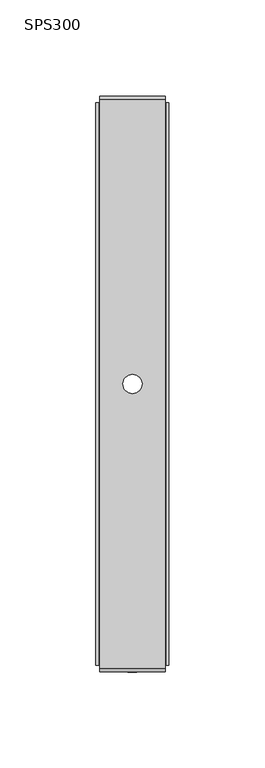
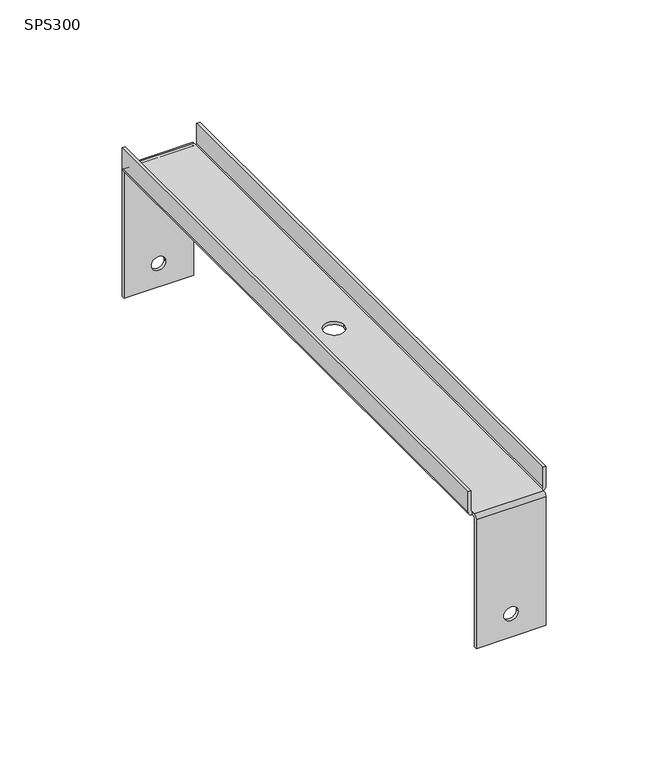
"""IFC4 building model written with IfcOpenShell, lengths in millimetres: proxy geometry, КМ Профиль_Скоба для подвеса на шпильке SPS : SPS300."""

from ifc_helpers import new_model, si_unit, frame, origin, place, context, project, spatial, polyline, circle_curve, source, transform, mapped, element, save
from ifc_brep_helpers import plane_surface, cylinder_surface, revolved_surface, advanced_brep


def sps300_ad1d5cba(model_context):
    return source(origin(), model_context, "Body", "AdvancedBrep", [
        advanced_brep(
        [(-17.0, 148.0, 0.0), (-17.0, 150.0, -2.0), (-17.0, 150.0, -68.5), (-17.0, 148.5, -68.5), (-17.0, 148.5, -2.0), (-17.0, 148.0, -1.5), (-17.0, 146.5, -1.5), (-17.0, 146.5, 0.0), (-17.0, -148.0, -1.5), (-17.0, -148.5, -2.0), (-17.0, -148.5, -68.5), (-17.0, -150.0, -68.5), (-17.0, -150.0, -2.0), (-17.0, -148.0, 0.0), (-17.0, -146.5, 0.0), (-17.0, -146.5, -1.5), (17.0, -148.0, 0.0), (17.0, -150.0, -2.0), (17.0, -150.0, -68.5), (17.0, -148.5, -68.5), (17.0, -148.5, -2.0), (17.0, -148.0, -1.5), (17.0, -146.5, -1.5), (17.0, -146.5, 0.0), (17.0, 148.0, -1.5), (17.0, 148.5, -2.0), (17.0, 148.5, -68.5), (17.0, 150.0, -68.5), (17.0, 150.0, -2.0), (17.0, 148.0, 0.0), (17.0, 146.5, 0.0), (17.0, 146.5, -1.5), (5.0, 0.0, 0.0), (0.0, -5.0, 0.0), (-5.0, 0.0, 0.0), (0.0, 5.0, 0.0), (-3.5, -148.5, -56.5), (3.5, -148.5, -56.5), (3.5, -150.0, -56.5), (-3.5, -150.0, -56.5), (5.0, 0.0, -1.5), (0.0, 5.0, -1.5), (-5.0, 0.0, -1.5), (0.0, -5.0, -1.5), (-3.5, 150.0, -56.5), (3.5, 150.0, -56.5), (3.5, 148.5, -56.5), (-3.5, 148.5, -56.5), (19.0, 146.5, 11.0), (19.0, 146.5, 0.5), (17.5, 146.5, 0.5), (17.5, 146.5, 11.0), (-19.0, 146.5, 0.5), (-19.0, 146.5, 11.0), (-17.5, 146.5, 11.0), (-17.5, 146.5, 0.5), (19.0, -146.5, 0.5), (19.0, -146.5, 11.0), (17.5, -146.5, 11.0), (17.5, -146.5, 0.5), (-17.5, -146.5, 0.5), (-17.5, -146.5, 11.0), (-19.0, -146.5, 11.0), (-19.0, -146.5, 0.5)],
        [
            (0, 1, circle_curve(frame((-17.0, 148.0, -2.0), z_axis=(-1.0, 0.0, 0.0), x_axis=(0.0, 1.0, 0.0)), 2.0)),
            (1, 2),
            (2, 3),
            (3, 4),
            (4, 5, circle_curve(frame((-17.0, 148.0, -2.0), z_axis=(1.0, 0.0, 0.0), x_axis=(0.0, 1.0, 0.0)), 0.5)),
            (5, 6),
            (6, 7),
            (7, 0),
            (8, 9, circle_curve(frame((-17.0, -148.0, -2.0), z_axis=(1.0, 0.0, 0.0), x_axis=(0.0, 1.0, 0.0)), 0.5)),
            (9, 10),
            (10, 11),
            (11, 12),
            (12, 13, circle_curve(frame((-17.0, -148.0, -2.0), z_axis=(-1.0, 0.0, 0.0), x_axis=(0.0, 1.0, 0.0)), 2.0)),
            (13, 14),
            (14, 15),
            (15, 8),
            (16, 17, circle_curve(frame((17.0, -148.0, -2.0), z_axis=(1.0, 0.0, 0.0), x_axis=(0.0, 1.0, 0.0)), 2.0)),
            (17, 18),
            (18, 19),
            (19, 20),
            (20, 21, circle_curve(frame((17.0, -148.0, -2.0), z_axis=(-1.0, 0.0, 0.0), x_axis=(0.0, 1.0, 0.0)), 0.5)),
            (21, 22),
            (22, 23),
            (23, 16),
            (24, 25, circle_curve(frame((17.0, 148.0, -2.0), z_axis=(-1.0, 0.0, 0.0), x_axis=(0.0, 1.0, 0.0)), 0.5)),
            (25, 26),
            (26, 27),
            (27, 28),
            (28, 29, circle_curve(frame((17.0, 148.0, -2.0), z_axis=(1.0, 0.0, 0.0), x_axis=(0.0, 1.0, 0.0)), 2.0)),
            (29, 30),
            (30, 31),
            (31, 24),
            (13, 16),
            (23, 30),
            (29, 0),
            (7, 14),
            (32, 33, circle_curve(frame((0.0, 0.0, 0.0), z_axis=(0.0, 0.0, -1.0), x_axis=(1.0, 0.0, 0.0)), 5.0)),
            (33, 34, circle_curve(frame((0.0, 0.0, 0.0), z_axis=(0.0, 0.0, -1.0), x_axis=(1.0, 0.0, 0.0)), 5.0)),
            (34, 35, circle_curve(frame((0.0, 0.0, 0.0), z_axis=(0.0, 0.0, -1.0), x_axis=(1.0, 0.0, 0.0)), 5.0)),
            (35, 32, circle_curve(frame((0.0, 0.0, 0.0), z_axis=(0.0, 0.0, -1.0), x_axis=(1.0, 0.0, 0.0)), 5.0)),
            (9, 20),
            (19, 10),
            (36, 37, circle_curve(frame((0.0, -148.5, -56.5), z_axis=(0.0, -1.0, 0.0), x_axis=(1.0, 0.0, 0.0)), 3.5)),
            (37, 36, circle_curve(frame((0.0, -148.5, -56.5), z_axis=(0.0, -1.0, 0.0), x_axis=(1.0, 0.0, 0.0)), 3.5)),
            (18, 11),
            (17, 12),
            (38, 39, circle_curve(frame((0.0, -150.0, -56.5), z_axis=(0.0, 1.0, 0.0), x_axis=(1.0, 0.0, 0.0)), 3.5)),
            (39, 38, circle_curve(frame((0.0, -150.0, -56.5), z_axis=(0.0, 1.0, 0.0), x_axis=(1.0, 0.0, 0.0)), 3.5)),
            (5, 24),
            (31, 22),
            (21, 8),
            (15, 6),
            (40, 41, circle_curve(frame((0.0, 0.0, -1.5), z_axis=(0.0, 0.0, 1.0), x_axis=(1.0, 0.0, 0.0)), 5.0)),
            (41, 42, circle_curve(frame((0.0, 0.0, -1.5), z_axis=(0.0, 0.0, 1.0), x_axis=(1.0, 0.0, 0.0)), 5.0)),
            (42, 43, circle_curve(frame((0.0, 0.0, -1.5), z_axis=(0.0, 0.0, 1.0), x_axis=(1.0, 0.0, 0.0)), 5.0)),
            (43, 40, circle_curve(frame((0.0, 0.0, -1.5), z_axis=(0.0, 0.0, 1.0), x_axis=(1.0, 0.0, 0.0)), 5.0)),
            (1, 28),
            (27, 2),
            (44, 45, circle_curve(frame((0.0, 150.0, -56.5), z_axis=(0.0, -1.0, 0.0), x_axis=(1.0, 0.0, 0.0)), 3.5)),
            (45, 44, circle_curve(frame((0.0, 150.0, -56.5), z_axis=(0.0, -1.0, 0.0), x_axis=(1.0, 0.0, 0.0)), 3.5)),
            (26, 3),
            (25, 4),
            (46, 47, circle_curve(frame((0.0, 148.5, -56.5), z_axis=(0.0, 1.0, 0.0), x_axis=(1.0, 0.0, 0.0)), 3.5)),
            (47, 46, circle_curve(frame((0.0, 148.5, -56.5), z_axis=(0.0, 1.0, 0.0), x_axis=(1.0, 0.0, 0.0)), 3.5)),
            (32, 40),
            (42, 34),
            (48, 49),
            (49, 31, circle_curve(frame((17.0, 146.5, 0.5), z_axis=(0.0, 1.0, 0.0), x_axis=(1.0, 0.0, 0.0)), 2.0)),
            (30, 50, circle_curve(frame((17.0, 146.5, 0.5), z_axis=(0.0, -1.0, 0.0), x_axis=(1.0, 0.0, 0.0)), 0.5)),
            (50, 51),
            (51, 48),
            (6, 52, circle_curve(frame((-17.0, 146.5, 0.5), z_axis=(0.0, 1.0, 0.0), x_axis=(1.0, 0.0, 0.0)), 2.0)),
            (52, 53),
            (53, 54),
            (54, 55),
            (55, 7, circle_curve(frame((-17.0, 146.5, 0.5), z_axis=(0.0, -1.0, 0.0), x_axis=(1.0, 0.0, 0.0)), 0.5)),
            (56, 57),
            (57, 58),
            (58, 59),
            (59, 23, circle_curve(frame((17.0, -146.5, 0.5), z_axis=(0.0, 1.0, 0.0), x_axis=(1.0, 0.0, 0.0)), 0.5)),
            (22, 56, circle_curve(frame((17.0, -146.5, 0.5), z_axis=(0.0, -1.0, 0.0), x_axis=(1.0, 0.0, 0.0)), 2.0)),
            (14, 60, circle_curve(frame((-17.0, -146.5, 0.5), z_axis=(0.0, 1.0, 0.0), x_axis=(1.0, 0.0, 0.0)), 0.5)),
            (60, 61),
            (61, 62),
            (62, 63),
            (63, 15, circle_curve(frame((-17.0, -146.5, 0.5), z_axis=(0.0, -1.0, 0.0), x_axis=(1.0, 0.0, 0.0)), 2.0)),
            (48, 57),
            (56, 49),
            (63, 52),
            (62, 53),
            (61, 54),
            (60, 55),
            (59, 50),
            (58, 51),
            (36, 39),
            (38, 37),
            (44, 47),
            (46, 45),
        ],
        [
            plane_surface(frame((-17.0, 0.0, 0.0), z_axis=(-1.0, 0.0, 0.0), x_axis=(0.0, 0.0, 1.0))),
            plane_surface(frame((17.0, 0.0, 0.0), z_axis=(1.0, 0.0, 0.0), x_axis=(0.0, 0.0, 1.0))),
            plane_surface(frame((-17.0, -148.0, 0.0), z_axis=(0.0, 0.0, 1.0), x_axis=(1.0, 0.0, 0.0))),
            plane_surface(frame((-17.0, -148.5, -2.0), z_axis=(0.0, 1.0, 0.0), x_axis=(1.0, 0.0, 0.0))),
            plane_surface(frame((-17.0, -148.5, -68.5), z_axis=(0.0, 0.0, -1.0), x_axis=(1.0, 0.0, 0.0))),
            plane_surface(frame((-17.0, -150.0, -68.5), z_axis=(0.0, -1.0, 0.0), x_axis=(1.0, 0.0, 0.0))),
            plane_surface(frame((-17.0, 148.0, -1.5), z_axis=(0.0, 0.0, -1.0), x_axis=(1.0, 0.0, 0.0))),
            plane_surface(frame((-17.0, 150.0, -2.0), z_axis=(0.0, 1.0, 0.0), x_axis=(1.0, 0.0, 0.0))),
            plane_surface(frame((-17.0, 150.0, -68.5), z_axis=(0.0, 0.0, -1.0), x_axis=(1.0, 0.0, 0.0))),
            plane_surface(frame((-17.0, 148.5, -68.5), z_axis=(0.0, -1.0, 0.0), x_axis=(1.0, 0.0, 0.0))),
            revolved_surface(polyline([(17.0, 148.5, -2.0), (-17.0, 148.5, -2.0)]), (-17.0, 148.0, -2.0), (1.0, 0.0, 0.0)),
            revolved_surface(polyline([(17.0, -147.5, -2.0), (-17.0, -147.5, -2.0)]), (-17.0, -148.0, -2.0), (1.0, 0.0, 0.0)),
            cylinder_surface(frame((-17.0, -148.0, -2.0), z_axis=(-1.0, 0.0, 0.0), x_axis=(0.0, 1.0, 0.0)), 2.0),
            cylinder_surface(frame((-17.0, 148.0, -2.0), z_axis=(-1.0, 0.0, 0.0), x_axis=(0.0, 1.0, 0.0)), 2.0),
            revolved_surface(polyline([(5.0, 0.0, 0.0), (5.0, 0.0, -1.5)]), (0.0, 0.0, -1.5), (0.0, 0.0, 1.0)),
            plane_surface(frame((0.0, 146.5, 0.0), z_axis=(0.0, 1.0, 0.0), x_axis=(0.0, 0.0, 1.0))),
            plane_surface(frame((0.0, -146.5, 0.0), z_axis=(0.0, -1.0, 0.0), x_axis=(0.0, 0.0, 1.0))),
            plane_surface(frame((19.0, 146.5, 11.0), z_axis=(1.0, 0.0, 0.0), x_axis=(0.0, -1.0, 0.0))),
            cylinder_surface(frame((17.0, 146.5, 0.5), z_axis=(0.0, 1.0, 0.0), x_axis=(1.0, 0.0, 0.0)), 2.0),
            cylinder_surface(frame((-17.0, 146.5, 0.5), z_axis=(0.0, 1.0, 0.0), x_axis=(1.0, 0.0, 0.0)), 2.0),
            plane_surface(frame((-19.0, 146.5, 0.5), z_axis=(-1.0, 0.0, 0.0), x_axis=(0.0, -1.0, 0.0))),
            plane_surface(frame((-19.0, 146.5, 11.0), z_axis=(0.0, 0.0, 1.0), x_axis=(0.0, -1.0, 0.0))),
            plane_surface(frame((-17.5, 146.5, 11.0), z_axis=(1.0, 0.0, 0.0), x_axis=(0.0, -1.0, 0.0))),
            revolved_surface(polyline([(-16.5, -146.5, 0.5), (-16.5, 146.5, 0.5)]), (-17.0, 146.5, 0.5), (0.0, -1.0, 0.0)),
            revolved_surface(polyline([(17.5, -146.5, 0.5), (17.5, 146.5, 0.5)]), (17.0, 146.5, 0.5), (0.0, -1.0, 0.0)),
            plane_surface(frame((17.5, 146.5, 0.5), z_axis=(-1.0, 0.0, 0.0), x_axis=(0.0, -1.0, 0.0))),
            plane_surface(frame((17.5, 146.5, 11.0), z_axis=(0.0, 0.0, 1.0), x_axis=(0.0, -1.0, 0.0))),
            revolved_surface(polyline([(3.5, -150.0, -56.5), (3.5, -148.5, -56.5)]), (0.0, 150.0, -56.5), (0.0, -1.0, 0.0)),
            revolved_surface(polyline([(3.5, 148.5, -56.5), (3.5, 150.0, -56.5)]), (0.0, 150.0, -56.5), (0.0, -1.0, 0.0)),
        ],
        [
            (0, [[1, 2, 3, 4, 5, 6, 7, 8]]),
            (0, [[9, 10, 11, 12, 13, 14, 15, 16]]),
            (1, [[17, 18, 19, 20, 21, 22, 23, 24]]),
            (1, [[25, 26, 27, 28, 29, 30, 31, 32]]),
            (2, [[33, -24, 34, -30, 35, -8, 36, -14], [37, 38, 39, 40]]),
            (3, [[-10, 41, -20, 42], [43, 44]]),
            (4, [[-11, -42, -19, 45]]),
            (5, [[-12, -45, -18, 46], [47, 48]]),
            (6, [[49, -32, 50, -22, 51, -16, 52, -6], [53, 54, 55, 56]]),
            (7, [[-2, 57, -28, 58], [59, 60]]),
            (8, [[-3, -58, -27, 61]]),
            (9, [[-4, -61, -26, 62], [63, 64]]),
            (10, [[-5, -62, -25, -49]]),
            (11, [[-9, -51, -21, -41]]),
            (12, [[-13, -46, -17, -33]]),
            (13, [[-1, -35, -29, -57]]),
            (14, [[65, -56, -55, 66, -38, -37]]),
            (14, [[-65, -40, -39, -66, -54, -53]]),
            (15, [[67, 68, -31, 69, 70, 71]]),
            (15, [[72, 73, 74, 75, 76, -7]]),
            (16, [[77, 78, 79, 80, -23, 81]]),
            (16, [[82, 83, 84, 85, 86, -15]]),
            (17, [[-67, 87, -77, 88]]),
            (18, [[-68, -88, -81, -50]]),
            (19, [[-72, -52, -86, 89]]),
            (20, [[-73, -89, -85, 90]]),
            (21, [[-74, -90, -84, 91]]),
            (22, [[-75, -91, -83, 92]]),
            (23, [[-76, -92, -82, -36]]),
            (24, [[-69, -34, -80, 93]]),
            (25, [[-70, -93, -79, 94]]),
            (26, [[-71, -94, -78, -87]]),
            (27, [[-43, 95, -47, 96]]),
            (28, [[-59, 97, -63, 98]]),
            (27, [[-44, -96, -48, -95]]),
            (28, [[-60, -98, -64, -97]]),
        ],
    ),
    ])


if __name__ == "__main__":
    model = new_model("IFC4")
    model_context = context("Model", 3, world=origin())
    ifc_project = project(units=[si_unit("LENGTHUNIT", "METRE", prefix="MILLI")], contexts=[model_context])
    site = spatial("IfcSite", under=ifc_project)
    building = spatial("IfcBuilding", under=site)
    placement = place(None, origin())
    sps300_shape = sps300_ad1d5cba(model_context)
    element("IfcBuildingElementProxy", 1, Name="КМ Профиль_Скоба для подвеса на шпильке SPS : SPS300", ObjectType="КМ Профиль_Скоба для подвеса на шпильке SPS : SPS300", at=placement, inside=building, context=model_context, shape_type="MappedRepresentation", body=[
        mapped(sps300_shape, transform((0.0, 0.0, 0.0), x_axis=(1.0, 0.0, 0.0), y_axis=(0.0, 1.0, 0.0), z_axis=(0.0, 0.0, 1.0))),
    ])
    save(model, "model.ifc")
